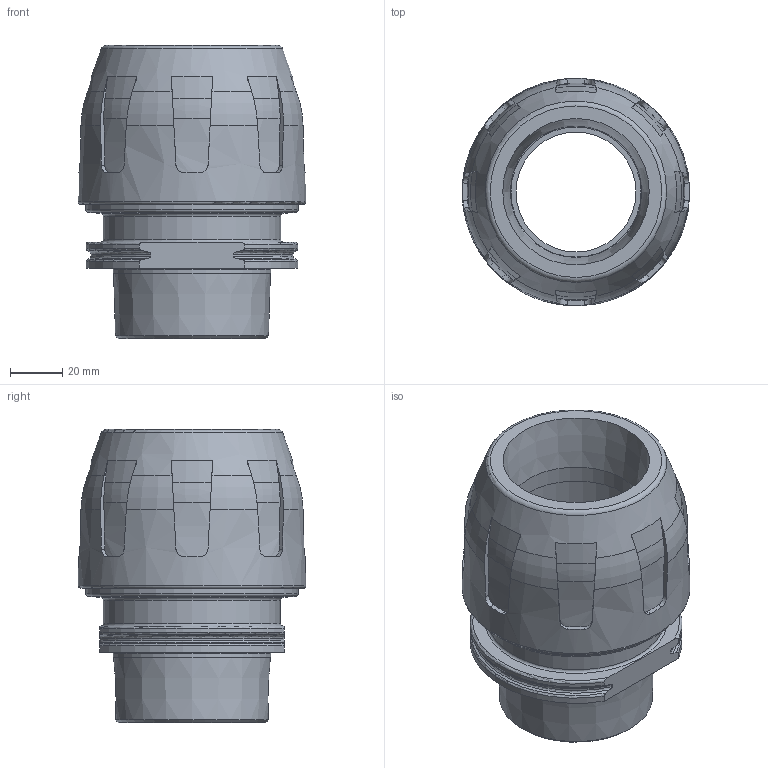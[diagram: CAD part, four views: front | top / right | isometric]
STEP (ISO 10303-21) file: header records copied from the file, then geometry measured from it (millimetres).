
FILE_DESCRIPTION( ( 'STEP AP214' ), '1' );
FILE_NAME( ' ', ' ', ( ' ' ), ( ' ' ), 'PSStep 11.0', 'VISI 17.0', ' ' );
FILE_SCHEMA( ( 'AUTOMOTIVE_DESIGN { 1 0 10303 214 1 1 1 1 }' ) );
Length unit declared in the file: millimetre
Products named in the file (2): 1; 2
Bounding box: 87.35 x 87.33 x 112.46 mm (x, y, z)
Volume: 270304.1 mm3; surface area: 75976 mm2
Topology: 2 solids, 2 shells, 241 faces, 672 edges, 446 vertices
Faces by surface type: plane 113, cone 55, cylinder 34, torus 23, bspline 16
Full cylindrical faces by diameter (mm): 50.625 x1, 50.9 x1, 59.3 x1, 60.5 x1, 68 x1, 70.3 x1, 71.6 x2, 75.8 x1, 76.4 x1, 81.4 x1, 82.4 x1
Entity records: 10375 total; most frequent: CARTESIAN_POINT 2729, ORIENTED_EDGE 1236, DIRECTION 1106, EDGE_CURVE 618, AXIS2_PLACEMENT_3D 481, VERTEX_POINT 428, EDGE_LOOP 292, FACE_OUTER_BOUND 266
